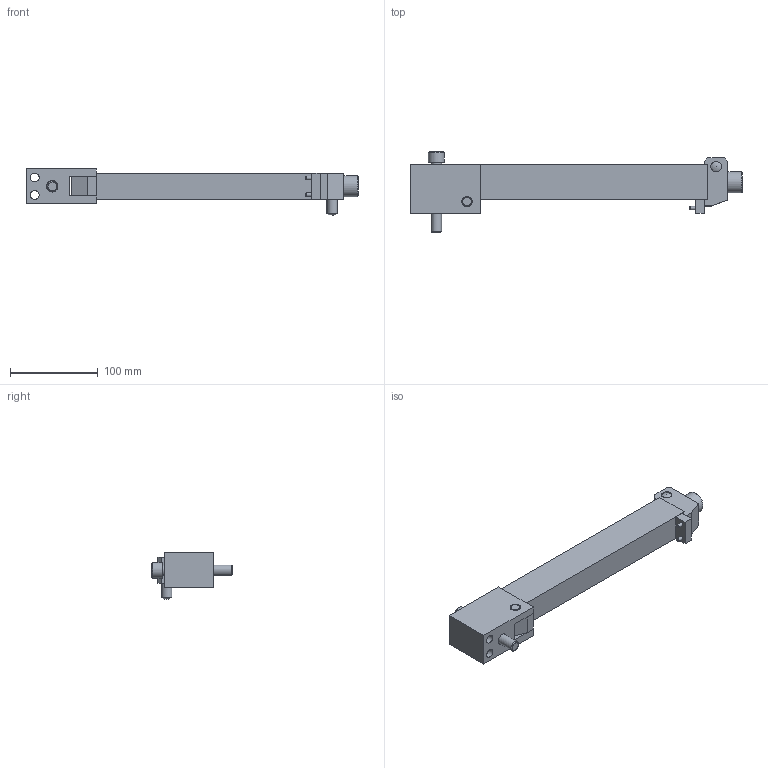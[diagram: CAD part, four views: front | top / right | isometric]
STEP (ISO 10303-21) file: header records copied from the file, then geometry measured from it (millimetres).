
FILE_DESCRIPTION(/* description */ ('STEP AP214'),/* implementation_level */ '2;1');
FILE_NAME(/* name */ 'KL22256',/* time_stamp */ '2024-12-19T07:59:41+01:00',/* author */ ('License CC BY-ND 4.0'),/* organization */ ('CADENAS'),/* preprocessor_version */ 'ST-DEVELOPER v19.3',/* originating_system */ 'PARTsolutions',/* authorisation */ ' ');
FILE_SCHEMA (('AUTOMOTIVE_DESIGN {1 0 10303 214 3 1 1}'));
Length unit declared in the file: millimetre
Products named in the file (11): KL22256; KL222561; KL222562; KL222563; KL222564; KL222565; KL222566; KL222567; KL222568; KL222569; KL2225610
Assembly tree (11 placements, depth 2):
  KL22256
    KL222561
    KL222562
    KL222563
    KL222564
    KL222565
    KL222566
    KL222567
    KL222568
    KL222569  x2
    KL2225610
Bounding box: 379 x 92 x 53 mm (x, y, z)
Volume: 522687.8 mm3; surface area: 100235.3 mm2
Topology: 11 solids, 11 shells, 137 faces, 306 edges, 200 vertices
Faces by surface type: plane 95, cylinder 25, cone 15, sphere 2
Full cylindrical faces by diameter (mm): 4 x2, 4.134 x1, 4.3 x2, 5 x1, 7 x2, 8 x2, 10 x2, 12 x7, 13 x1, 13.835 x1, 16 x1, 17 x1, 18 x1, 24 x1
Entity records: 3476 total; most frequent: DIRECTION 556, CARTESIAN_POINT 548, ORIENTED_EDGE 460, EDGE_CURVE 230, AXIS2_PLACEMENT_3D 192, FACE_BOUND 191, EDGE_LOOP 190, VERTEX_POINT 173
